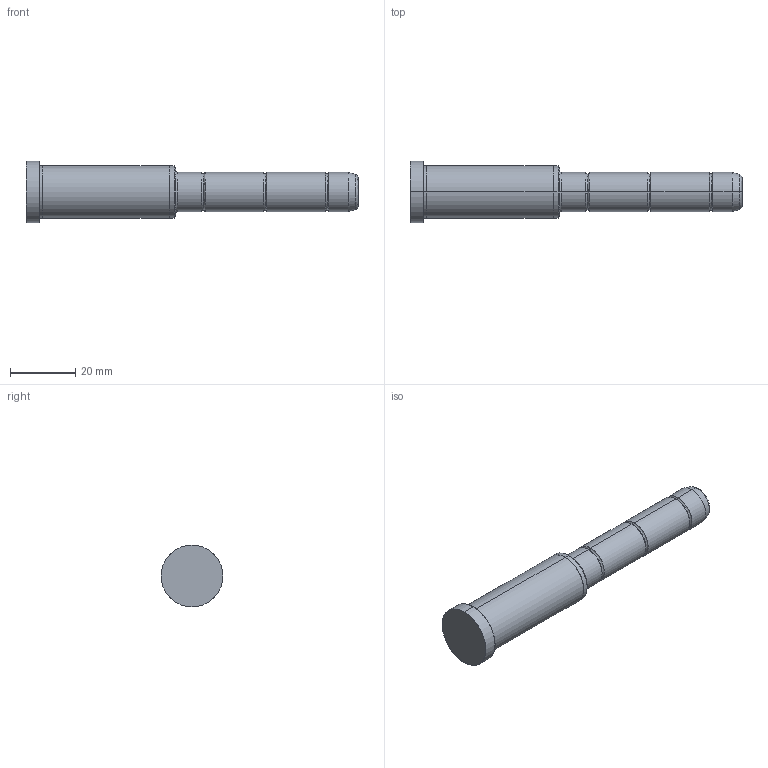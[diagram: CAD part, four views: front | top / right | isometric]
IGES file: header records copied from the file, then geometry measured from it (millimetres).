
Start section: SolidWorks IGES file using analytic representation for surfaces
Global section: file name: C:\Documents and Settings\kalite-mail\Desktop\IGS\D02\12\D02 - 12x46x56.IGS; native system: SolidWorks 2008; preprocessor: SolidWorks 2008; author: kalite-mail; date: 080616.135548; units: millimetre
Bounding box: 102 x 19 x 19 mm (x, y, z)
Surface area: 5023.9 mm2 (no closed solid volume)
Topology: 0 solids, 0 shells, 42 faces, 464 edges, 464 vertices
Faces by surface type: bspline 22, revolution 20
